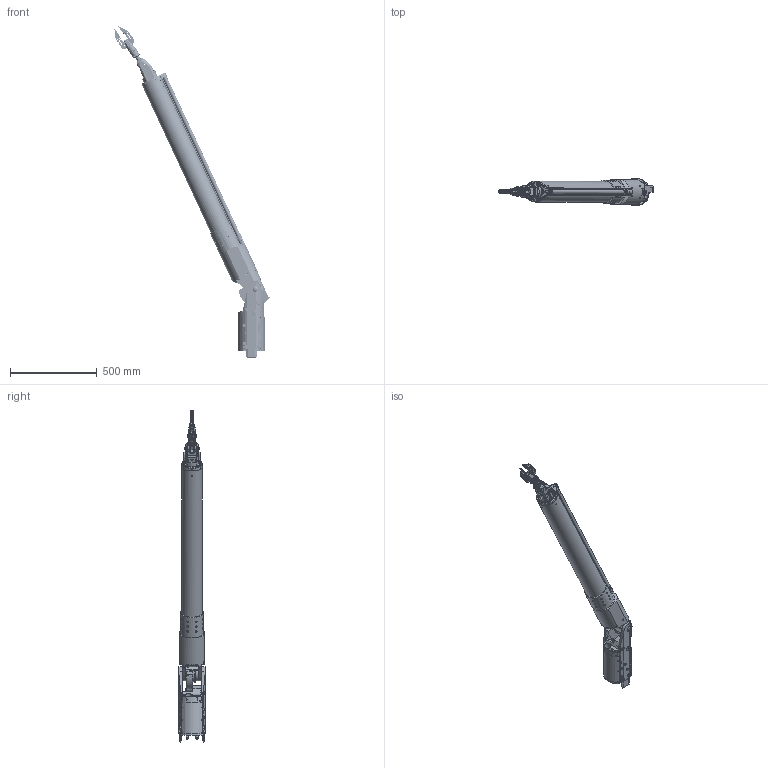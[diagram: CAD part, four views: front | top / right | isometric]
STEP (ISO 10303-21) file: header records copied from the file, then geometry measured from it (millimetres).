
FILE_DESCRIPTION( ( 'STEP AP214' ), '1' );
FILE_NAME( 'G:/SIT/270-BRAS PYTHON/04-S_Ens du Python séparés pour montage avec contrainte/BRAS PYTHON 3.30 BASIFIE SIMPLIFIE STEP/BRAS PYTHON 3.50M.step', '2007-05-03T11:37:10', ( ' ' ), ( ' ' ), 'XStep 1.0', ' ', ' ' );
FILE_SCHEMA( ( 'automotive_design' ) );
Length unit declared in the file: millimetre
Products named in the file (14): 1; 2; 3; 4; 5; 6; 7; 8; 9; 10; 11; 12; 13; 14
Bounding box: 895.02 x 150 x 1911.53 mm (x, y, z)
Volume: 12937204 mm3; surface area: 3495258.6 mm2
Topology: 14 solids, 80 shells, 7407 faces, 15194 edges, 8180 vertices
Faces by surface type: plane 5717, cylinder 1226, cone 369, torus 43, bspline 31, sphere 21
Full cylindrical faces by diameter (mm): 1 x2, 2 x6, 2.05 x6, 2.48 x2, 2.5 x9, 2.6 x2, 2.98 x16, 3 x15, 3.3 x33, 3.4 x30, 4 x52, 4.2 x11, 4.5 x42, 4.8 x3, 5 x26, 5.01 x26, 5.5 x44, 6 x9, 6.5 x3, 6.6 x16, 6.75 x3, 7 x13, 7.5 x1, 8 x24, 8.4 x29, 8.5 x9, 8.8 x3, 9 x19, 9.3 x2, 9.6 x2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
Entity records: 256501 total; most frequent: CARTESIAN_POINT 52748, DIRECTION 29883, ORIENTED_EDGE 26934, EDGE_CURVE 13467, LINE 10049, VECTOR 10049, AXIS2_PLACEMENT_3D 9917, EDGE_LOOP 9042
